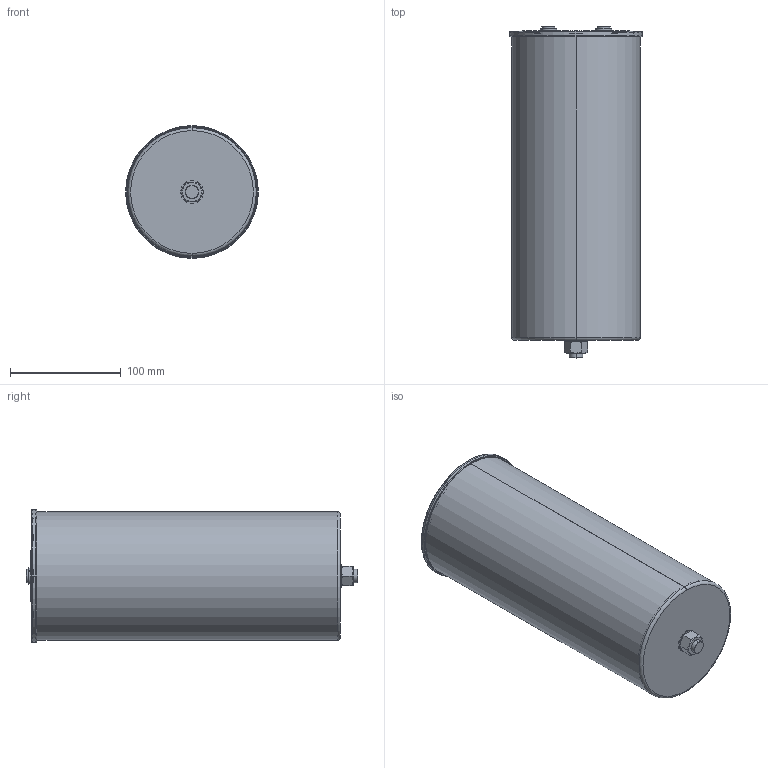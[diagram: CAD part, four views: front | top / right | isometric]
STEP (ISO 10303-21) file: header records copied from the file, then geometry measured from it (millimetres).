
FILE_DESCRIPTION (( 'STEP AP203' ), '1' );
FILE_NAME ('B25680Bx_116x279_284.STEP', '2021-09-13T07:45:23', ( '' ), ( '' ), 'SwSTEP 2.0', 'SolidWorks 2017', '' );
FILE_SCHEMA (( 'CONFIG_CONTROL_DESIGN' ));
Length unit declared in the file: millimetre
Products named in the file (1): B25680Bx_116x279_284
Bounding box: 120 x 300 x 120 mm (x, y, z)
Volume: 160887.5 mm3; surface area: 273448.2 mm2
Topology: 1 solids, 7 shells, 385 faces, 908 edges, 572 vertices
Faces by surface type: plane 153, cylinder 142, torus 42, cone 36, bspline 12
Entity records: 12405 total; most frequent: CARTESIAN_POINT 3162, DIRECTION 2092, ORIENTED_EDGE 1808, EDGE_CURVE 904, AXIS2_PLACEMENT_3D 850, VERTEX_POINT 572, CIRCLE 476, EDGE_LOOP 436
